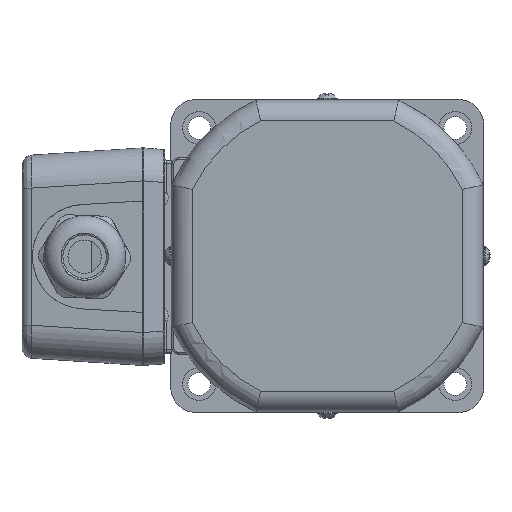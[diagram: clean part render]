
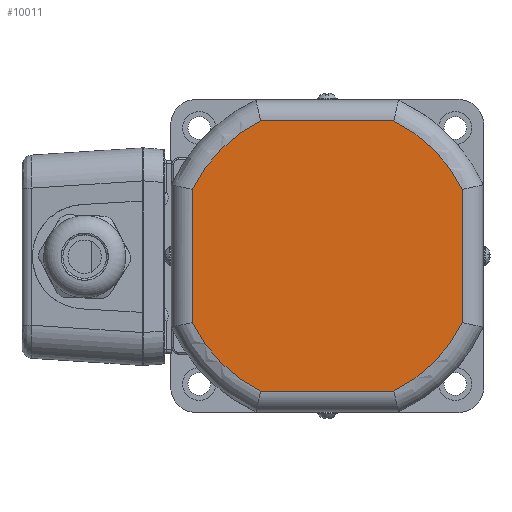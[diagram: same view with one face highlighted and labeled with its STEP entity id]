
A CAD part, left-side view. The second image highlights one B-rep face of the part: STEP entity #10011.
In plain terms, the highlighted planar face has unit normal (-1, 0, 0).
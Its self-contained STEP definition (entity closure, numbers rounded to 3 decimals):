
#9638=CARTESIAN_POINT('',(-17.8,-19.108,-38.8));
#9639=VERTEX_POINT('',#9638);
#9666=CARTESIAN_POINT('',(-17.8,-38.8,-19.108));
#9667=VERTEX_POINT('',#9666);
#9685=CARTESIAN_POINT('',(-17.8,0.,0.));
#9686=DIRECTION('',(1.0,0.0,0.0));
#9687=DIRECTION('',(0.0,-0.707,-0.707));
#9688=AXIS2_PLACEMENT_3D('',#9685,#9686,#9687);
#9689=CIRCLE('',#9688,43.25);
#9690=EDGE_CURVE('',#9667,#9639,#9689,.T.);
#9702=CARTESIAN_POINT('',(-17.8,-38.8,19.108));
#9703=VERTEX_POINT('',#9702);
#9721=CARTESIAN_POINT('',(-17.8,-38.8,19.108));
#9722=DIRECTION('',(0.0,0.0,-1.0));
#9723=VECTOR('',#9722,38.216);
#9724=LINE('',#9721,#9723);
#9725=EDGE_CURVE('',#9703,#9667,#9724,.T.);
#9744=CARTESIAN_POINT('',(-17.8,19.108,-38.8));
#9745=VERTEX_POINT('',#9744);
#9770=CARTESIAN_POINT('',(-17.8,-19.108,-38.8));
#9771=DIRECTION('',(0.0,1.0,0.0));
#9772=VECTOR('',#9771,38.216);
#9773=LINE('',#9770,#9772);
#9774=EDGE_CURVE('',#9639,#9745,#9773,.T.);
#9784=CARTESIAN_POINT('',(-17.8,-19.108,38.8));
#9785=VERTEX_POINT('',#9784);
#9803=CARTESIAN_POINT('',(-17.8,0.,0.));
#9804=DIRECTION('',(1.0,0.0,0.0));
#9805=DIRECTION('',(0.0,-0.707,0.707));
#9806=AXIS2_PLACEMENT_3D('',#9803,#9804,#9805);
#9807=CIRCLE('',#9806,43.25);
#9808=EDGE_CURVE('',#9785,#9703,#9807,.T.);
#9826=CARTESIAN_POINT('',(-17.8,38.8,-19.108));
#9827=VERTEX_POINT('',#9826);
#9853=CARTESIAN_POINT('',(-17.8,0.,0.));
#9854=DIRECTION('',(1.,0.0,0.0));
#9855=DIRECTION('',(0.0,0.707,-0.707));
#9856=AXIS2_PLACEMENT_3D('',#9853,#9854,#9855);
#9857=CIRCLE('',#9856,43.25);
#9858=EDGE_CURVE('',#9745,#9827,#9857,.T.);
#9868=CARTESIAN_POINT('',(-17.8,19.108,38.8));
#9869=VERTEX_POINT('',#9868);
#9887=CARTESIAN_POINT('',(-17.8,19.108,38.8));
#9888=DIRECTION('',(0.0,-1.0,0.0));
#9889=VECTOR('',#9888,38.216);
#9890=LINE('',#9887,#9889);
#9891=EDGE_CURVE('',#9869,#9785,#9890,.T.);
#9903=CARTESIAN_POINT('',(-17.8,38.8,19.108));
#9904=VERTEX_POINT('',#9903);
#9924=CARTESIAN_POINT('',(-17.8,38.8,-19.108));
#9925=DIRECTION('',(0.0,0.0,1.0));
#9926=VECTOR('',#9925,38.216);
#9927=LINE('',#9924,#9926);
#9928=EDGE_CURVE('',#9827,#9904,#9927,.T.);
#9939=CARTESIAN_POINT('',(-17.8,0.,0.));
#9940=DIRECTION('',(1.0,0.0,0.0));
#9941=DIRECTION('',(0.0,0.707,0.707));
#9942=AXIS2_PLACEMENT_3D('',#9939,#9940,#9941);
#9943=CIRCLE('',#9942,43.25);
#9944=EDGE_CURVE('',#9904,#9869,#9943,.T.);
#9996=CARTESIAN_POINT('',(-17.8,0.,0.));
#9997=DIRECTION('',(1.0,0.0,0.0));
#9998=DIRECTION('',(0.0,0.0,-1.0));
#9999=AXIS2_PLACEMENT_3D('',#9996,#9997,#9998);
#10000=PLANE('',#9999);
#10001=ORIENTED_EDGE('',*,*,#9928,.F.);
#10002=ORIENTED_EDGE('',*,*,#9858,.F.);
#10003=ORIENTED_EDGE('',*,*,#9774,.F.);
#10004=ORIENTED_EDGE('',*,*,#9690,.F.);
#10005=ORIENTED_EDGE('',*,*,#9725,.F.);
#10006=ORIENTED_EDGE('',*,*,#9808,.F.);
#10007=ORIENTED_EDGE('',*,*,#9891,.F.);
#10008=ORIENTED_EDGE('',*,*,#9944,.F.);
#10009=EDGE_LOOP('',(#10001,#10002,#10003,#10004,#10005,#10006,#10007,#10008));
#10010=FACE_OUTER_BOUND('',#10009,.T.);
#10011=ADVANCED_FACE('',(#10010),#10000,.F.);
